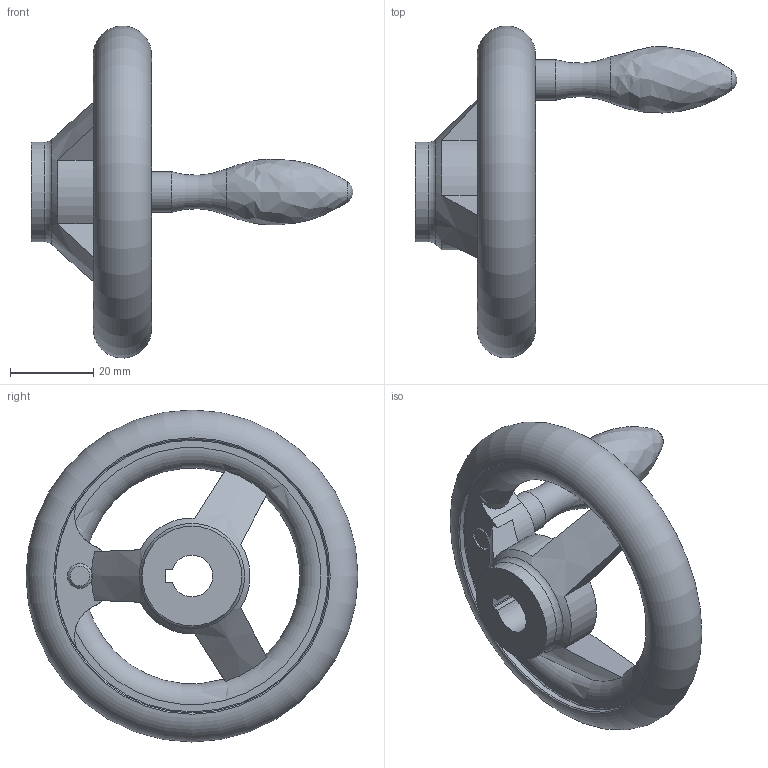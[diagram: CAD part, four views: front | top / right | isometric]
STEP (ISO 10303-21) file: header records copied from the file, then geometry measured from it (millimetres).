
FILE_DESCRIPTION( ( 'STEP AP203' ), '1' );
FILE_NAME( 'C:/Temp/Ganter_Step_05_03_2020/data/1_3/din_950/din_950_k/din_950_k_f/Handwheel DIN 950-GG-80-K10-F.stp', '2020-03-05T10:31:09', ( 'License CC BY-ND 4.0' ), ( 'CADENAS' ), ' ', 'PARTsolutions', ' ' );
FILE_SCHEMA( ( 'CONFIG_CONTROL_DESIGN' ) );
Length unit declared in the file: millimetre
Products named in the file (1): _Handwheel DIN 950-GG-80-K10-F
Bounding box: 77.5 x 79.98 x 79.98 mm (x, y, z)
Volume: 45423 mm3; surface area: 15607.2 mm2
Topology: 1 solids, 1 shells, 48 faces, 138 edges, 88 vertices
Faces by surface type: plane 17, cylinder 15, torus 11, cone 3, sphere 1, bspline 1
Full cylindrical faces by diameter (mm): 6 x1, 9.8 x1, 24 x2, 66 x2
Entity records: 1747 total; most frequent: CARTESIAN_POINT 566, DIRECTION 236, ORIENTED_EDGE 222, EDGE_CURVE 111, AXIS2_PLACEMENT_3D 106, VERTEX_POINT 82, EDGE_LOOP 71, FACE_OUTER_BOUND 63
